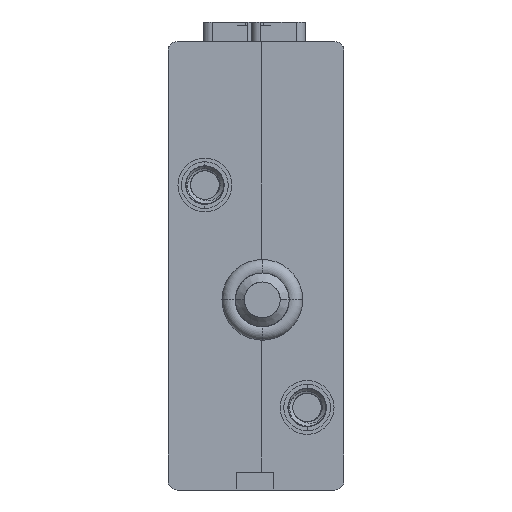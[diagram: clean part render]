
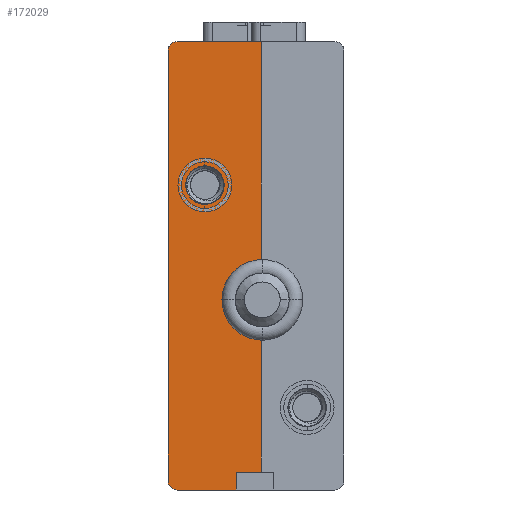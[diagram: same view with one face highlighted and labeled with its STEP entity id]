
A CAD part, left-side view. The second image highlights one B-rep face of the part: STEP entity #172029.
In plain terms, the highlighted planar face has unit normal (-1, 0, 0).
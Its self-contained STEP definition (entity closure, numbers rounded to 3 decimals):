
#1892 = EDGE_CURVE ( 'NONE', #222607, #76208, #43796, .T. ) ;
#4144 = EDGE_LOOP ( 'NONE', ( #235969, #169368 ) ) ;
#4343 = VECTOR ( 'NONE', #42990, 1000. ) ;
#5850 = DIRECTION ( 'NONE',  ( 1., 0., 0. ) ) ;
#11796 = DIRECTION ( 'NONE',  ( 0., 0., -1. ) ) ;
#13353 = EDGE_CURVE ( 'NONE', #220710, #180992, #133485, .T. ) ;
#14937 = DIRECTION ( 'NONE',  ( 1., 0., 0. ) ) ;
#30070 = VERTEX_POINT ( 'NONE', #243772 ) ;
#33282 = CARTESIAN_POINT ( 'NONE',  ( -21., 2.05, -4.5 ) ) ;
#36247 = EDGE_CURVE ( 'NONE', #201659, #220710, #166982, .T. ) ;
#36895 = CARTESIAN_POINT ( 'NONE',  ( -21., 5.2, 3.549 ) ) ;
#42018 = CARTESIAN_POINT ( 'NONE',  ( -21., 0., -12.5 ) ) ;
#42990 = DIRECTION ( 'NONE',  ( 0., 0., -1. ) ) ;
#43796 = CIRCLE ( 'NONE', #236188, 1.05 ) ;
#47231 = CIRCLE ( 'NONE', #109844, 0.5 ) ;
#48342 = EDGE_CURVE ( 'NONE', #76208, #222607, #93572, .T. ) ;
#53000 = VECTOR ( 'NONE', #132910, 1000. ) ;
#54624 = DIRECTION ( 'NONE',  ( 0., 0., -1. ) ) ;
#55183 = ORIENTED_EDGE ( 'NONE', *, *, #36247, .F. ) ;
#55274 = CARTESIAN_POINT ( 'NONE',  ( -21., 3.1, -4.5 ) ) ;
#55476 = ORIENTED_EDGE ( 'NONE', *, *, #179241, .F. ) ;
#60113 = AXIS2_PLACEMENT_3D ( 'NONE', #243051, #5850, #177904 ) ;
#64350 = VECTOR ( 'NONE', #11796, 1000. ) ;
#68579 = DIRECTION ( 'NONE',  ( 1., 0., 0. ) ) ;
#70136 = EDGE_CURVE ( 'NONE', #222602, #30070, #158414, .T. ) ;
#76208 = VERTEX_POINT ( 'NONE', #189301 ) ;
#79462 = EDGE_CURVE ( 'NONE', #211436, #147459, #111366, .T. ) ;
#82461 = DIRECTION ( 'NONE',  ( 0., 1., 0. ) ) ;
#89527 = DIRECTION ( 'NONE',  ( 0., -1., 0. ) ) ;
#93572 = CIRCLE ( 'NONE', #60113, 1.05 ) ;
#95666 = LINE ( 'NONE', #178094, #160284 ) ;
#96089 = VERTEX_POINT ( 'NONE', #235330 ) ;
#96950 = DIRECTION ( 'NONE',  ( 0., -1., 0. ) ) ;
#101831 = DIRECTION ( 'NONE',  ( 0., -1., 0. ) ) ;
#104407 = CARTESIAN_POINT ( 'NONE',  ( -21., 3.8, 12.5 ) ) ;
#109844 = AXIS2_PLACEMENT_3D ( 'NONE', #153809, #14937, #232457 ) ;
#111366 = LINE ( 'NONE', #191232, #64350 ) ;
#118239 = VERTEX_POINT ( 'NONE', #186822 ) ;
#118831 = ORIENTED_EDGE ( 'NONE', *, *, #178903, .T. ) ;
#120258 = CARTESIAN_POINT ( 'NONE',  ( -21., 5.2, 11.5 ) ) ;
#122041 = ORIENTED_EDGE ( 'NONE', *, *, #13353, .F. ) ;
#123463 = CARTESIAN_POINT ( 'NONE',  ( -21., 3.8, 11.5 ) ) ;
#129034 = CARTESIAN_POINT ( 'NONE',  ( -21., 0.5, -12.5 ) ) ;
#132910 = DIRECTION ( 'NONE',  ( 0., 0., -1. ) ) ;
#133485 = CIRCLE ( 'NONE', #234090, 0.5 ) ;
#133507 = DIRECTION ( 'NONE',  ( 0., -0.03, 1. ) ) ;
#133792 = CARTESIAN_POINT ( 'NONE',  ( -21., 0., -12. ) ) ;
#135323 = ORIENTED_EDGE ( 'NONE', *, *, #217425, .F. ) ;
#144106 = DIRECTION ( 'NONE',  ( -1., 0., 0. ) ) ;
#145015 = CARTESIAN_POINT ( 'NONE',  ( -21., 3.8, 12.5 ) ) ;
#147459 = VERTEX_POINT ( 'NONE', #123463 ) ;
#149253 = CARTESIAN_POINT ( 'NONE',  ( -21., 5.25, 1.9 ) ) ;
#149629 = VECTOR ( 'NONE', #206657, 1000. ) ;
#152635 = VECTOR ( 'NONE', #101831, 1000. ) ;
#153809 = CARTESIAN_POINT ( 'NONE',  ( -21., 0.5, 12. ) ) ;
#158414 = CIRCLE ( 'NONE', #170951, 1.65 ) ;
#160284 = VECTOR ( 'NONE', #96950, 1000. ) ;
#162417 = DIRECTION ( 'NONE',  ( 0., 0., 1. ) ) ;
#163433 = LINE ( 'NONE', #164708, #149629 ) ;
#164708 = CARTESIAN_POINT ( 'NONE',  ( -21., 0.5, -12.5 ) ) ;
#164994 = FACE_OUTER_BOUND ( 'NONE', #173053, .T. ) ;
#166982 = LINE ( 'NONE', #229891, #53000 ) ;
#169368 = ORIENTED_EDGE ( 'NONE', *, *, #1892, .T. ) ;
#169416 = CARTESIAN_POINT ( 'NONE',  ( -21., 0.5, -12. ) ) ;
#170189 = DIRECTION ( 'NONE',  ( 1., 0., 0. ) ) ;
#170951 = AXIS2_PLACEMENT_3D ( 'NONE', #149253, #170189, #133507 ) ;
#172029 = ADVANCED_FACE ( 'NONE', ( #199161, #164994 ), #184666, .T. ) ;
#172759 = EDGE_CURVE ( 'NONE', #244434, #222602, #204018, .T. ) ;
#173053 = EDGE_LOOP ( 'NONE', ( #220294, #184626, #205015, #210607, #118831, #202328, #122041, #55183, #55476, #135323 ) ) ;
#177904 = DIRECTION ( 'NONE',  ( 0., -1., 0. ) ) ;
#178094 = CARTESIAN_POINT ( 'NONE',  ( -21., 5.2, 11.5 ) ) ;
#178890 = CARTESIAN_POINT ( 'NONE',  ( -21., 5.2, 0.251 ) ) ;
#178903 = EDGE_CURVE ( 'NONE', #30070, #118239, #234045, .T. ) ;
#179241 = EDGE_CURVE ( 'NONE', #96089, #201659, #47231, .T. ) ;
#179483 = DIRECTION ( 'NONE',  ( 1., 0., 0. ) ) ;
#179796 = AXIS2_PLACEMENT_3D ( 'NONE', #42018, #144106, #162417 ) ;
#180875 = VECTOR ( 'NONE', #54624, 1000. ) ;
#180992 = VERTEX_POINT ( 'NONE', #129034 ) ;
#184626 = ORIENTED_EDGE ( 'NONE', *, *, #214697, .F. ) ;
#184666 = PLANE ( 'NONE',  #179796 ) ;
#186822 = CARTESIAN_POINT ( 'NONE',  ( -21., 5.2, -12.5 ) ) ;
#189301 = CARTESIAN_POINT ( 'NONE',  ( -21., 1., -4.5 ) ) ;
#191232 = CARTESIAN_POINT ( 'NONE',  ( -21., 3.8, 12.5 ) ) ;
#196782 = EDGE_CURVE ( 'NONE', #180992, #118239, #163433, .T. ) ;
#199161 = FACE_BOUND ( 'NONE', #4144, .T. ) ;
#201659 = VERTEX_POINT ( 'NONE', #240820 ) ;
#202328 = ORIENTED_EDGE ( 'NONE', *, *, #196782, .F. ) ;
#204018 = LINE ( 'NONE', #120258, #4343 ) ;
#205015 = ORIENTED_EDGE ( 'NONE', *, *, #172759, .T. ) ;
#206657 = DIRECTION ( 'NONE',  ( 0., 1., 0. ) ) ;
#210607 = ORIENTED_EDGE ( 'NONE', *, *, #70136, .T. ) ;
#211436 = VERTEX_POINT ( 'NONE', #104407 ) ;
#214697 = EDGE_CURVE ( 'NONE', #244434, #147459, #95666, .T. ) ;
#217425 = EDGE_CURVE ( 'NONE', #211436, #96089, #223650, .T. ) ;
#220294 = ORIENTED_EDGE ( 'NONE', *, *, #79462, .T. ) ;
#220710 = VERTEX_POINT ( 'NONE', #133792 ) ;
#222602 = VERTEX_POINT ( 'NONE', #36895 ) ;
#222607 = VERTEX_POINT ( 'NONE', #55274 ) ;
#223650 = LINE ( 'NONE', #145015, #152635 ) ;
#229891 = CARTESIAN_POINT ( 'NONE',  ( -21., 0., 12. ) ) ;
#232457 = DIRECTION ( 'NONE',  ( 0., 0., 1. ) ) ;
#234045 = LINE ( 'NONE', #178890, #180875 ) ;
#234090 = AXIS2_PLACEMENT_3D ( 'NONE', #169416, #68579, #89527 ) ;
#235330 = CARTESIAN_POINT ( 'NONE',  ( -21., 0.5, 12.5 ) ) ;
#235969 = ORIENTED_EDGE ( 'NONE', *, *, #48342, .T. ) ;
#236188 = AXIS2_PLACEMENT_3D ( 'NONE', #33282, #179483, #82461 ) ;
#240820 = CARTESIAN_POINT ( 'NONE',  ( -21., 0., 12. ) ) ;
#243051 = CARTESIAN_POINT ( 'NONE',  ( -21., 2.05, -4.5 ) ) ;
#243772 = CARTESIAN_POINT ( 'NONE',  ( -21., 5.2, 0.251 ) ) ;
#244434 = VERTEX_POINT ( 'NONE', #245480 ) ;
#245480 = CARTESIAN_POINT ( 'NONE',  ( -21., 5.2, 11.5 ) ) ;
